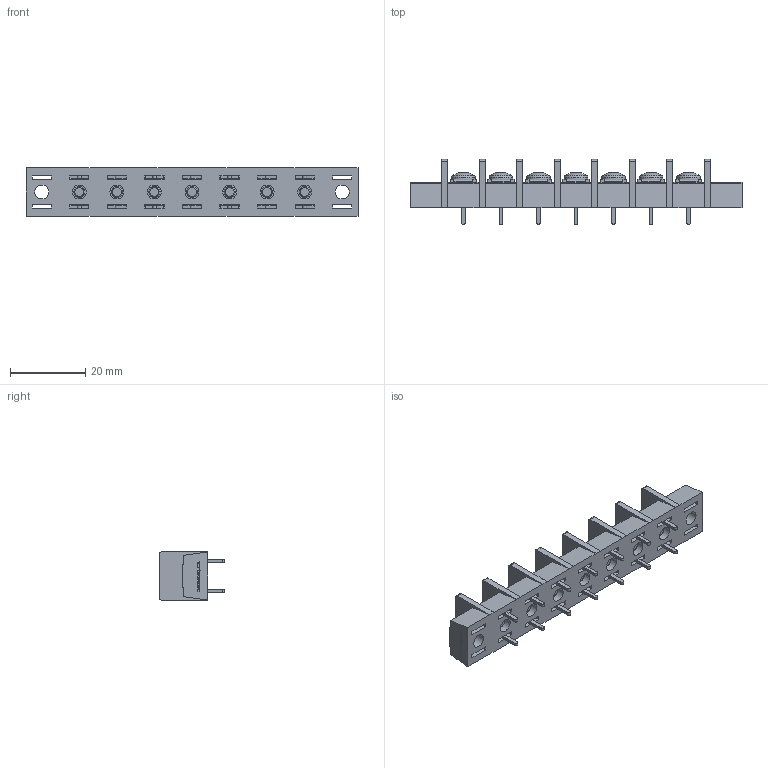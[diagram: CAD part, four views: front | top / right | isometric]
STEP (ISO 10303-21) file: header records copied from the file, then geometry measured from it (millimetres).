
FILE_DESCRIPTION(/* description */ ('Alibre Inc.'),/* implementation_level */ '2;1');
FILE_NAME(/* name */ 'export0',/* time_stamp */ '2015-10-23T18:51:08+09:00',/* author */ (''),/* organization */ (''),/* preprocessor_version */ 'ST-DEVELOPER v14',/* originating_system */ 'Alibre',/* authorisation */ '');
FILE_SCHEMA (('CONFIG_CONTROL_DESIGN'));
Length unit declared in the file: centimetre
Products named in the file (1): ID_1
Bounding box: 88.4 x 17.3 x 12.8 mm (x, y, z)
Volume: 7688.5 mm3; surface area: 9002.4 mm2
Topology: 1 solids, 120 shells, 2407 faces, 6191 edges, 4094 vertices
Faces by surface type: plane 1800, bspline 468, cylinder 83, cone 35, torus 14, sphere 7
Full cylindrical faces by diameter (mm): 3 x14, 3.7 x9, 4.6 x9, 6.3 x7
Entity records: 69769 total; most frequent: CARTESIAN_POINT 16831, ORIENTED_EDGE 12244, DIRECTION 7324, EDGE_CURVE 6122, VECTOR 4717, LINE 4717, VERTEX_POINT 4085, EDGE_LOOP 2647
